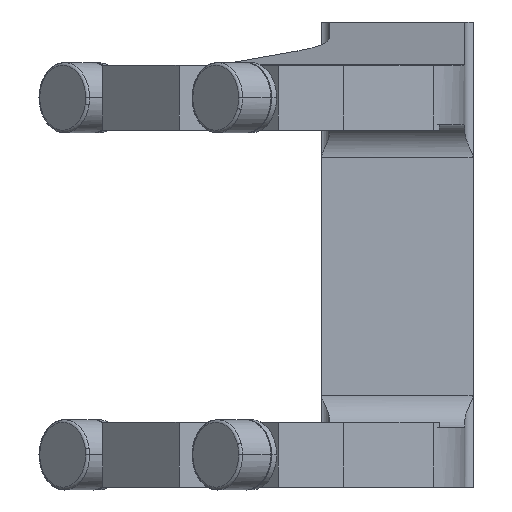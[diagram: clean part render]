
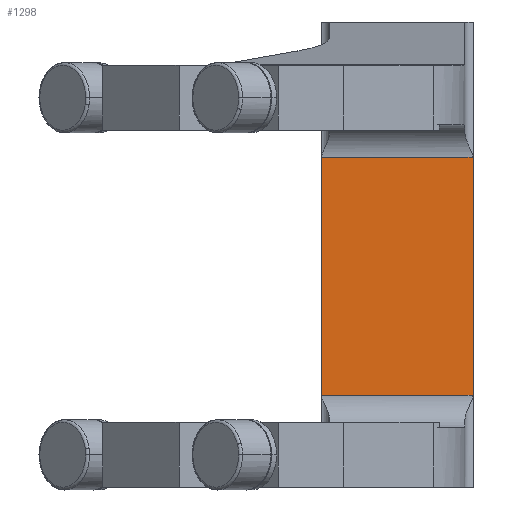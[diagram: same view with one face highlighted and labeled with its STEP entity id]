
A CAD part, front view. The second image highlights one B-rep face of the part: STEP entity #1298.
In plain terms, the highlighted planar face has unit normal (0, -1, 0).
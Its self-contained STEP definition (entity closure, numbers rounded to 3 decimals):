
#1285=AXIS2_PLACEMENT_3D('Plane Axis2P3D',#1282,#1283,#1284) ;
#737=CARTESIAN_POINT('Line Origine',(29.,80.,-22.)) ;
#741=CARTESIAN_POINT('Vertex',(43.,80.,-22.)) ;
#743=CARTESIAN_POINT('Vertex',(15.,80.,-22.)) ;
#1031=CARTESIAN_POINT('Vertex',(43.,80.,22.)) ;
#1034=CARTESIAN_POINT('Line Origine',(43.,80.,0.)) ;
#1167=CARTESIAN_POINT('Line Origine',(15.,80.,0.)) ;
#1171=CARTESIAN_POINT('Vertex',(15.,80.,22.)) ;
#1282=CARTESIAN_POINT('Axis2P3D Location',(43.,80.,22.)) ;
#1287=CARTESIAN_POINT('Line Origine',(29.,80.,22.)) ;
#738=DIRECTION('Vector Direction',(1.,0.,0.)) ;
#1035=DIRECTION('Vector Direction',(0.,0.,1.)) ;
#1168=DIRECTION('Vector Direction',(0.,0.,1.)) ;
#1283=DIRECTION('Axis2P3D Direction',(-0.,1.,0.)) ;
#1284=DIRECTION('Axis2P3D XDirection',(1.,0.,0.)) ;
#1288=DIRECTION('Vector Direction',(-1.,0.,0.)) ;
#739=VECTOR('Line Direction',#738,1.) ;
#1036=VECTOR('Line Direction',#1035,1.) ;
#1169=VECTOR('Line Direction',#1168,1.) ;
#1289=VECTOR('Line Direction',#1288,1.) ;
#1293=ORIENTED_EDGE('',*,*,#1173,.F.) ;
#1294=ORIENTED_EDGE('',*,*,#745,.F.) ;
#1295=ORIENTED_EDGE('',*,*,#1038,.T.) ;
#1296=ORIENTED_EDGE('',*,*,#1291,.T.) ;
#1298=ADVANCED_FACE('\X2\96F64EF651E04F554F53\X0\ ( NONE - wsp *MASTER -  )',(#1297),#1286,.F.) ;
#745=EDGE_CURVE('',#742,#744,#740,.F.) ;
#1038=EDGE_CURVE('',#742,#1032,#1037,.T.) ;
#1173=EDGE_CURVE('',#744,#1172,#1170,.T.) ;
#1291=EDGE_CURVE('',#1032,#1172,#1290,.T.) ;
#1292=EDGE_LOOP('',(#1293,#1294,#1295,#1296)) ;
#1297=FACE_OUTER_BOUND('',#1292,.T.) ;
#740=LINE('Line',#737,#739) ;
#1037=LINE('Line',#1034,#1036) ;
#1170=LINE('Line',#1167,#1169) ;
#1290=LINE('Line',#1287,#1289) ;
#1286=PLANE('',#1285) ;
#742=VERTEX_POINT('',#741) ;
#744=VERTEX_POINT('',#743) ;
#1032=VERTEX_POINT('',#1031) ;
#1172=VERTEX_POINT('',#1171) ;
